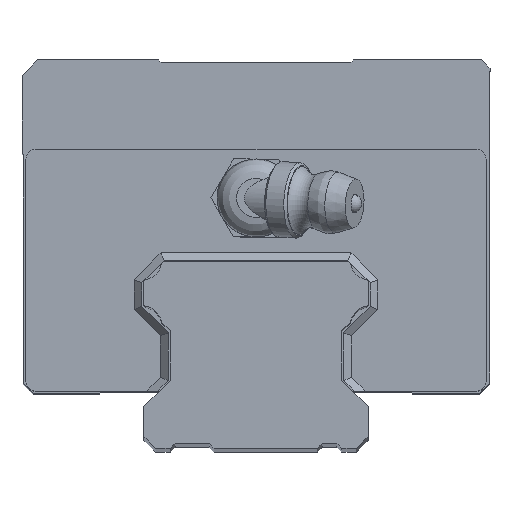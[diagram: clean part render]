
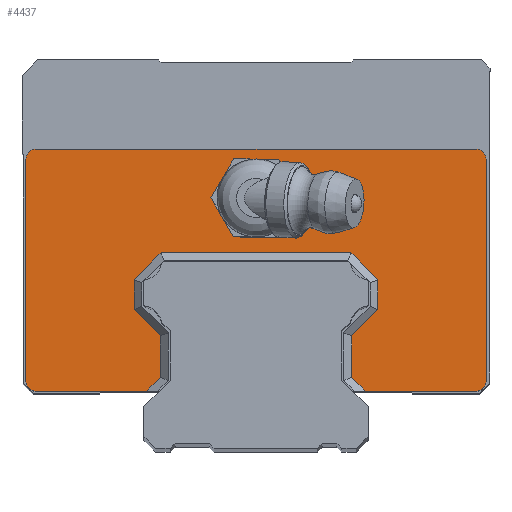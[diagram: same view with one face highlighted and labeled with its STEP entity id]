
A CAD part, top view. The second image highlights one B-rep face of the part: STEP entity #4437.
In plain terms, the highlighted planar face has unit normal (0, 0, 1).
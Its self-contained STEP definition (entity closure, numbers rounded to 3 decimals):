
#2238=CARTESIAN_POINT('',(2436.45,-3989.447,-50662.087));
#2239=VERTEX_POINT('',#2238);
#2240=CARTESIAN_POINT('',(2441.068,-3989.474,-50662.087));
#2241=VERTEX_POINT('',#2240);
#2242=CARTESIAN_POINT('',(2436.45,-3989.447,-50662.087));
#2243=DIRECTION('',(1.,-0.006,0.0));
#2244=VECTOR('',#2243,4.619);
#2245=LINE('',#2242,#2244);
#2246=EDGE_CURVE('',#2239,#2241,#2245,.T.);
#2270=CARTESIAN_POINT('',(2434.117,-3993.433,-50662.087));
#2271=VERTEX_POINT('',#2270);
#2272=CARTESIAN_POINT('',(2434.117,-3993.433,-50662.087));
#2273=DIRECTION('',(0.505,0.863,0.0));
#2274=VECTOR('',#2273,4.619);
#2275=LINE('',#2272,#2274);
#2276=EDGE_CURVE('',#2271,#2239,#2275,.T.);
#2295=CARTESIAN_POINT('',(2436.402,-3997.447,-50662.087));
#2296=VERTEX_POINT('',#2295);
#2297=CARTESIAN_POINT('',(2436.402,-3997.447,-50662.087));
#2298=DIRECTION('',(-0.495,0.869,0.0));
#2299=VECTOR('',#2298,4.619);
#2300=LINE('',#2297,#2299);
#2301=EDGE_CURVE('',#2296,#2271,#2300,.T.);
#2327=CARTESIAN_POINT('',(2441.021,-3997.474,-50662.087));
#2328=VERTEX_POINT('',#2327);
#2329=CARTESIAN_POINT('',(2441.021,-3997.474,-50662.087));
#2330=DIRECTION('',(-1.,0.006,0.0));
#2331=VECTOR('',#2330,4.619);
#2332=LINE('',#2329,#2331);
#2333=EDGE_CURVE('',#2328,#2296,#2332,.T.);
#2357=CARTESIAN_POINT('',(2443.354,-3993.488,-50662.087));
#2358=VERTEX_POINT('',#2357);
#2359=CARTESIAN_POINT('',(2443.354,-3993.488,-50662.087));
#2360=DIRECTION('',(-0.505,-0.863,0.0));
#2361=VECTOR('',#2360,4.619);
#2362=LINE('',#2359,#2361);
#2363=EDGE_CURVE('',#2358,#2328,#2362,.T.);
#2382=CARTESIAN_POINT('',(2441.068,-3989.474,-50662.087));
#2383=DIRECTION('',(0.495,-0.869,0.0));
#2384=VECTOR('',#2383,4.619);
#2385=LINE('',#2382,#2384);
#2386=EDGE_CURVE('',#2241,#2358,#2385,.T.);
#4258=CARTESIAN_POINT('',(2416.135,-4012.261,-50662.087));
#4259=DIRECTION('',(0.0,0.0,1.0));
#4260=DIRECTION('',(1.0,0.0,0.0));
#4261=AXIS2_PLACEMENT_3D('',#4258,#4259,#4260);
#4262=PLANE('',#4261);
#4263=CARTESIAN_POINT('',(2448.535,-4011.846,-50662.087));
#4264=VERTEX_POINT('',#4263);
#4265=CARTESIAN_POINT('',(2448.535,-4007.595,-50662.087));
#4266=VERTEX_POINT('',#4265);
#4267=CARTESIAN_POINT('',(2448.535,-4011.846,-50662.087));
#4268=DIRECTION('',(0.0,1.0,0.0));
#4269=VECTOR('',#4268,4.251);
#4270=LINE('',#4267,#4269);
#4271=EDGE_CURVE('',#4264,#4266,#4270,.T.);
#4272=ORIENTED_EDGE('',*,*,#4271,.F.);
#4273=CARTESIAN_POINT('',(2449.95,-4013.261,-50662.087));
#4274=VERTEX_POINT('',#4273);
#4275=CARTESIAN_POINT('',(2449.95,-4013.261,-50662.087));
#4276=DIRECTION('',(-0.707,0.707,0.0));
#4277=VECTOR('',#4276,2.);
#4278=LINE('',#4275,#4277);
#4279=EDGE_CURVE('',#4274,#4264,#4278,.T.);
#4280=ORIENTED_EDGE('',*,*,#4279,.F.);
#4281=CARTESIAN_POINT('',(2461.335,-4013.261,-50662.087));
#4282=VERTEX_POINT('',#4281);
#4283=CARTESIAN_POINT('',(2449.95,-4013.261,-50662.087));
#4284=DIRECTION('',(1.0,0.,0.0));
#4285=VECTOR('',#4284,11.386);
#4286=LINE('',#4283,#4285);
#4287=EDGE_CURVE('',#4274,#4282,#4286,.T.);
#4288=ORIENTED_EDGE('',*,*,#4287,.T.);
#4289=CARTESIAN_POINT('',(2462.335,-4012.261,-50662.087));
#4290=VERTEX_POINT('',#4289);
#4291=CARTESIAN_POINT('',(2461.335,-4012.261,-50662.087));
#4292=DIRECTION('',(0.0,0.0,1.0));
#4293=DIRECTION('',(1.0,0.0,0.0));
#4294=AXIS2_PLACEMENT_3D('',#4291,#4292,#4293);
#4295=CIRCLE('',#4294,1.);
#4296=EDGE_CURVE('',#4282,#4290,#4295,.T.);
#4297=ORIENTED_EDGE('',*,*,#4296,.T.);
#4298=CARTESIAN_POINT('',(2462.335,-3989.461,-50662.087));
#4299=VERTEX_POINT('',#4298);
#4300=CARTESIAN_POINT('',(2462.335,-4012.261,-50662.087));
#4301=DIRECTION('',(0.,1.0,0.0));
#4302=VECTOR('',#4301,22.8);
#4303=LINE('',#4300,#4302);
#4304=EDGE_CURVE('',#4290,#4299,#4303,.T.);
#4305=ORIENTED_EDGE('',*,*,#4304,.T.);
#4306=CARTESIAN_POINT('',(2461.335,-3988.461,-50662.087));
#4307=VERTEX_POINT('',#4306);
#4308=CARTESIAN_POINT('',(2461.335,-3989.461,-50662.087));
#4309=DIRECTION('',(0.0,0.0,1.0));
#4310=DIRECTION('',(1.0,0.0,0.0));
#4311=AXIS2_PLACEMENT_3D('',#4308,#4309,#4310);
#4312=CIRCLE('',#4311,1.);
#4313=EDGE_CURVE('',#4299,#4307,#4312,.T.);
#4314=ORIENTED_EDGE('',*,*,#4313,.T.);
#4315=CARTESIAN_POINT('',(2416.135,-3988.461,-50662.087));
#4316=VERTEX_POINT('',#4315);
#4317=CARTESIAN_POINT('',(2461.335,-3988.461,-50662.087));
#4318=DIRECTION('',(-1.0,0.0,0.0));
#4319=VECTOR('',#4318,45.2);
#4320=LINE('',#4317,#4319);
#4321=EDGE_CURVE('',#4307,#4316,#4320,.T.);
#4322=ORIENTED_EDGE('',*,*,#4321,.T.);
#4323=CARTESIAN_POINT('',(2415.135,-3989.461,-50662.087));
#4324=VERTEX_POINT('',#4323);
#4325=CARTESIAN_POINT('',(2416.135,-3989.461,-50662.087));
#4326=DIRECTION('',(0.0,0.0,1.0));
#4327=DIRECTION('',(1.0,0.0,0.0));
#4328=AXIS2_PLACEMENT_3D('',#4325,#4326,#4327);
#4329=CIRCLE('',#4328,1.);
#4330=EDGE_CURVE('',#4316,#4324,#4329,.T.);
#4331=ORIENTED_EDGE('',*,*,#4330,.T.);
#4332=CARTESIAN_POINT('',(2415.135,-4012.261,-50662.087));
#4333=VERTEX_POINT('',#4332);
#4334=CARTESIAN_POINT('',(2415.135,-3989.461,-50662.087));
#4335=DIRECTION('',(0.0,-1.0,0.0));
#4336=VECTOR('',#4335,22.8);
#4337=LINE('',#4334,#4336);
#4338=EDGE_CURVE('',#4324,#4333,#4337,.T.);
#4339=ORIENTED_EDGE('',*,*,#4338,.T.);
#4340=CARTESIAN_POINT('',(2416.135,-4013.261,-50662.087));
#4341=VERTEX_POINT('',#4340);
#4342=CARTESIAN_POINT('',(2416.135,-4012.261,-50662.087));
#4343=DIRECTION('',(0.0,0.0,1.0));
#4344=DIRECTION('',(1.0,0.0,0.0));
#4345=AXIS2_PLACEMENT_3D('',#4342,#4343,#4344);
#4346=CIRCLE('',#4345,1.);
#4347=EDGE_CURVE('',#4333,#4341,#4346,.T.);
#4348=ORIENTED_EDGE('',*,*,#4347,.T.);
#4349=CARTESIAN_POINT('',(2427.521,-4013.261,-50662.087));
#4350=VERTEX_POINT('',#4349);
#4351=CARTESIAN_POINT('',(2416.135,-4013.261,-50662.087));
#4352=DIRECTION('',(1.0,0.0,0.0));
#4353=VECTOR('',#4352,11.386);
#4354=LINE('',#4351,#4353);
#4355=EDGE_CURVE('',#4341,#4350,#4354,.T.);
#4356=ORIENTED_EDGE('',*,*,#4355,.T.);
#4357=CARTESIAN_POINT('',(2428.935,-4011.846,-50662.087));
#4358=VERTEX_POINT('',#4357);
#4359=CARTESIAN_POINT('',(2428.935,-4011.846,-50662.087));
#4360=DIRECTION('',(-0.707,-0.707,0.0));
#4361=VECTOR('',#4360,2.);
#4362=LINE('',#4359,#4361);
#4363=EDGE_CURVE('',#4358,#4350,#4362,.T.);
#4364=ORIENTED_EDGE('',*,*,#4363,.F.);
#4365=CARTESIAN_POINT('',(2428.935,-4007.595,-50662.087));
#4366=VERTEX_POINT('',#4365);
#4367=CARTESIAN_POINT('',(2428.935,-4007.595,-50662.087));
#4368=DIRECTION('',(0.0,-1.0,0.0));
#4369=VECTOR('',#4368,4.251);
#4370=LINE('',#4367,#4369);
#4371=EDGE_CURVE('',#4366,#4358,#4370,.T.);
#4372=ORIENTED_EDGE('',*,*,#4371,.F.);
#4373=CARTESIAN_POINT('',(2426.235,-4004.895,-50662.087));
#4374=VERTEX_POINT('',#4373);
#4375=CARTESIAN_POINT('',(2426.235,-4004.895,-50662.087));
#4376=DIRECTION('',(0.707,-0.707,0.0));
#4377=VECTOR('',#4376,3.819);
#4378=LINE('',#4375,#4377);
#4379=EDGE_CURVE('',#4374,#4366,#4378,.T.);
#4380=ORIENTED_EDGE('',*,*,#4379,.F.);
#4381=CARTESIAN_POINT('',(2426.235,-4001.823,-50662.087));
#4382=VERTEX_POINT('',#4381);
#4383=CARTESIAN_POINT('',(2426.235,-4001.823,-50662.087));
#4384=DIRECTION('',(0.0,-1.0,0.0));
#4385=VECTOR('',#4384,3.071);
#4386=LINE('',#4383,#4385);
#4387=EDGE_CURVE('',#4382,#4374,#4386,.T.);
#4388=ORIENTED_EDGE('',*,*,#4387,.F.);
#4389=CARTESIAN_POINT('',(2428.998,-3999.061,-50662.087));
#4390=VERTEX_POINT('',#4389);
#4391=CARTESIAN_POINT('',(2428.998,-3999.061,-50662.087));
#4392=DIRECTION('',(-0.707,-0.707,0.0));
#4393=VECTOR('',#4392,3.907);
#4394=LINE('',#4391,#4393);
#4395=EDGE_CURVE('',#4390,#4382,#4394,.T.);
#4396=ORIENTED_EDGE('',*,*,#4395,.F.);
#4397=CARTESIAN_POINT('',(2448.473,-3999.061,-50662.087));
#4398=VERTEX_POINT('',#4397);
#4399=CARTESIAN_POINT('',(2448.473,-3999.061,-50662.087));
#4400=DIRECTION('',(-1.0,0.0,0.0));
#4401=VECTOR('',#4400,19.475);
#4402=LINE('',#4399,#4401);
#4403=EDGE_CURVE('',#4398,#4390,#4402,.T.);
#4404=ORIENTED_EDGE('',*,*,#4403,.F.);
#4405=CARTESIAN_POINT('',(2451.236,-4001.823,-50662.087));
#4406=VERTEX_POINT('',#4405);
#4407=CARTESIAN_POINT('',(2451.236,-4001.823,-50662.087));
#4408=DIRECTION('',(-0.707,0.707,0.0));
#4409=VECTOR('',#4408,3.907);
#4410=LINE('',#4407,#4409);
#4411=EDGE_CURVE('',#4406,#4398,#4410,.T.);
#4412=ORIENTED_EDGE('',*,*,#4411,.F.);
#4413=CARTESIAN_POINT('',(2451.236,-4004.895,-50662.087));
#4414=VERTEX_POINT('',#4413);
#4415=CARTESIAN_POINT('',(2451.236,-4004.895,-50662.087));
#4416=DIRECTION('',(0.,1.0,0.0));
#4417=VECTOR('',#4416,3.071);
#4418=LINE('',#4415,#4417);
#4419=EDGE_CURVE('',#4414,#4406,#4418,.T.);
#4420=ORIENTED_EDGE('',*,*,#4419,.F.);
#4421=CARTESIAN_POINT('',(2448.535,-4007.595,-50662.087));
#4422=DIRECTION('',(0.707,0.707,0.0));
#4423=VECTOR('',#4422,3.819);
#4424=LINE('',#4421,#4423);
#4425=EDGE_CURVE('',#4266,#4414,#4424,.T.);
#4426=ORIENTED_EDGE('',*,*,#4425,.F.);
#4427=EDGE_LOOP('',(#4272,#4280,#4288,#4297,#4305,#4314,#4322,#4331,#4339,#4348,#4356,#4364,#4372,#4380,#4388,#4396,#4404,#4412,#4420,#4426));
#4428=FACE_OUTER_BOUND('',#4427,.T.);
#4429=ORIENTED_EDGE('',*,*,#2246,.T.);
#4430=ORIENTED_EDGE('',*,*,#2386,.T.);
#4431=ORIENTED_EDGE('',*,*,#2363,.T.);
#4432=ORIENTED_EDGE('',*,*,#2333,.T.);
#4433=ORIENTED_EDGE('',*,*,#2301,.T.);
#4434=ORIENTED_EDGE('',*,*,#2276,.T.);
#4435=EDGE_LOOP('',(#4429,#4430,#4431,#4432,#4433,#4434));
#4436=FACE_BOUND('',#4435,.T.);
#4437=ADVANCED_FACE('',(#4428,#4436),#4262,.T.);
